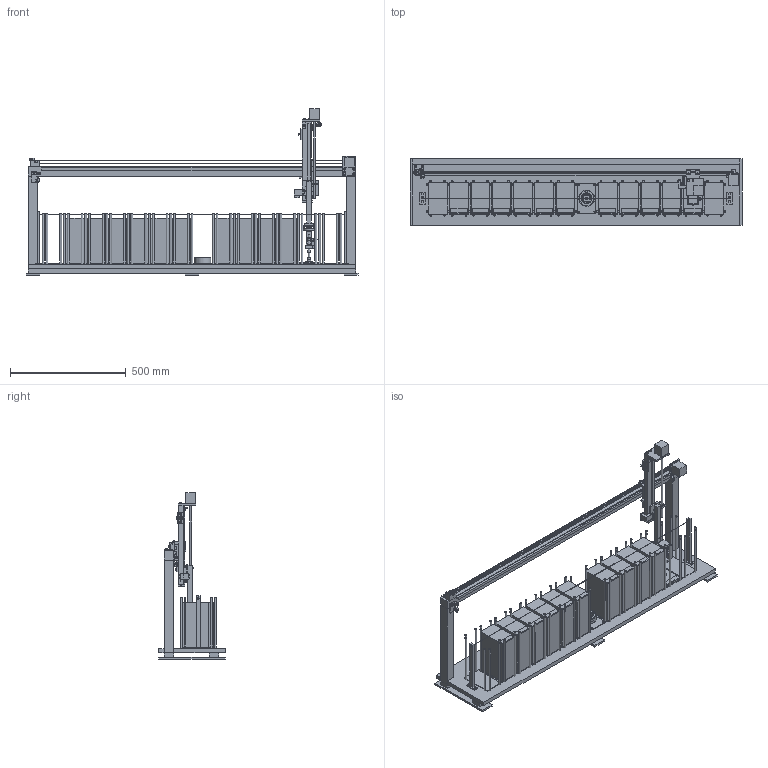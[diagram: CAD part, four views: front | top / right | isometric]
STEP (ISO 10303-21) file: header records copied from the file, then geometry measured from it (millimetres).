
FILE_DESCRIPTION(('Open CASCADE Model'),'2;1');
FILE_NAME('Open CASCADE Shape Model','2026-10-27T22:14:15',('Author'),( 'Open CASCADE'),'Open CASCADE STEP processor 7.9','Open CASCADE 7.9' ,'Unknown');
FILE_SCHEMA(('AUTOMOTIVE_DESIGN { 1 0 10303 214 1 1 1 1 }'));
Length unit declared in the file: millimetre
Products named in the file (240): slabrail_pick_bottom; base_rail_0; base_rail_1; upright_L; upright_R; foot_L; foot_M; foot_R; x_beam; x_rail; bed_plywood; x_motor; x_motor_mount; x_idler_mount; x_idler_slider; x_bumper_L; x_pulley; x_idler; x_belt_lo; x_belt_hi; fx_motor_m3_-16-16; fx_motor_m3_-16+16; fx_motor_m3_+16-16; fx_motor_m3_+16+16; fx_motor_m5_-23-30; fx_motor_m5_+18-30; fx_motor_m5_-22-10; fx_motor_m5_+18-10; fx_idler_m5_-20; fx_idler_m5_+6; fx_idler_tension; fx_idler_axle; x_switch_mount; x_home_switch; fx_xsw_m2_5; fx_xsw_nut_5; fx_xsw_m2_15; fx_xsw_nut_15; fx_xsw_m5_-48; fx_xsw_m5_-37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
Assembly tree (239 placements, depth 2):
  slabrail_pick_bottom
    base_rail_0
    base_rail_1
    upright_L
    upright_R
    foot_L
    foot_M
    foot_R
    x_beam
    x_rail
    bed_plywood
    x_motor
    x_motor_mount
    x_idler_mount
    x_idler_slider
    x_bumper_L
    x_pulley
    x_idler
    x_belt_lo
    x_belt_hi
    fx_motor_m3_-16-16
    fx_motor_m3_-16+16
    fx_motor_m3_+16-16
    fx_motor_m3_+16+16
    fx_motor_m5_-23-30
    fx_motor_m5_+18-30
    fx_motor_m5_-22-10
    fx_motor_m5_+18-10
    fx_idler_m5_-20
    fx_idler_m5_+6
    fx_idler_tension
    fx_idler_axle
    x_switch_mount
    x_home_switch
    fx_xsw_m2_5
    fx_xsw_nut_5
    fx_xsw_m2_15
    fx_xsw_nut_15
    fx_xsw_m5_-48
    fx_xsw_m5_-37
    pad_0
    pad_1
    pad_2
    pad_3
    pad_4
    pad_5
    pad_6
    pad_7
    pad_8
    pad_9
    pad_10
    pad_11
    pad_12
    rod_00
    rod_01
    rod_02
    rod_03
    rod_04
    rod_05
    rod_06
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Bounding box: 1436 x 289.5 x 720 mm (x, y, z)
Volume: 40639041.8 mm3; surface area: 4459078 mm2
Topology: 241 solids, 241 shells, 1669 faces, 3296 edges, 2195 vertices
Faces by surface type: plane 1337, cylinder 331, cone 1
Full cylindrical faces by diameter (mm): 1.2 x1, 1.8 x4, 2 x2, 2.35 x4, 2.5 x6, 3 x4, 3.2 x4, 3.4 x33, 3.8 x4, 4.5 x5, 4.6 x4, 5.2 x1, 5.3 x2, 5.5 x55, 6 x1, 6.2 x1, 6.4 x4, 6.5 x14, 7 x6, 7.2 x1, 8 x84, 8.083 x1, 8.5 x14, 9 x1, 9.238 x2, 9.5 x12, 10 x7, 10.4 x1, 10.5 x1, 14 x2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
Entity records: 92490 total; most frequent: CARTESIAN_POINT 15021, DIRECTION 14266, LINE 8408, VECTOR 8408, ORIENTED_EDGE 6592, PCURVE 6592, DEFINITIONAL_REPRESENTATION 6592, EDGE_CURVE 3296
